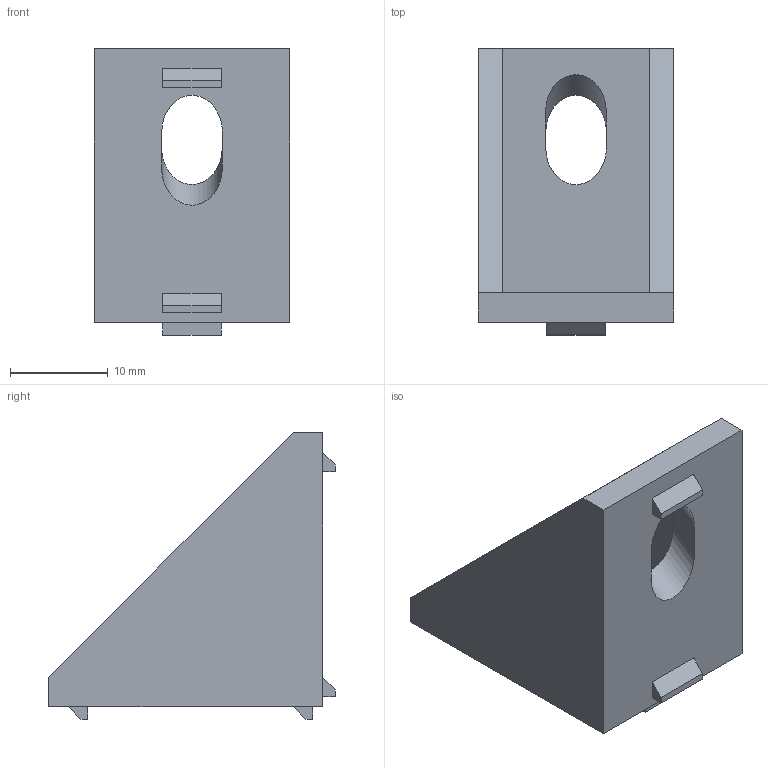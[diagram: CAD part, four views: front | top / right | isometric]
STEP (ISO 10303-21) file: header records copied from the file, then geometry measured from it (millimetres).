
FILE_DESCRIPTION (( 'STEP AP203' ), '1' );
FILE_NAME ('LIMA-GE20X28-6.STEP', '2018-03-15T12:44:22', ( '' ), ( '' ), 'SwSTEP 2.0', 'SolidWorks 2013', '' );
FILE_SCHEMA (( 'CONFIG_CONTROL_DESIGN' ));
Length unit declared in the file: millimetre
Products named in the file (1): LIMA-GE20X28-6
Bounding box: 20 x 29.3 x 29.3 mm (x, y, z)
Volume: 4427.2 mm3; surface area: 3741.3 mm2
Topology: 1 solids, 1 shells, 42 faces, 104 edges, 68 vertices
Faces by surface type: plane 36, cylinder 6
Entity records: 1301 total; most frequent: CARTESIAN_POINT 251, ORIENTED_EDGE 208, DIRECTION 178, EDGE_CURVE 104, LINE 92, VECTOR 92, VERTEX_POINT 68, EDGE_LOOP 50
